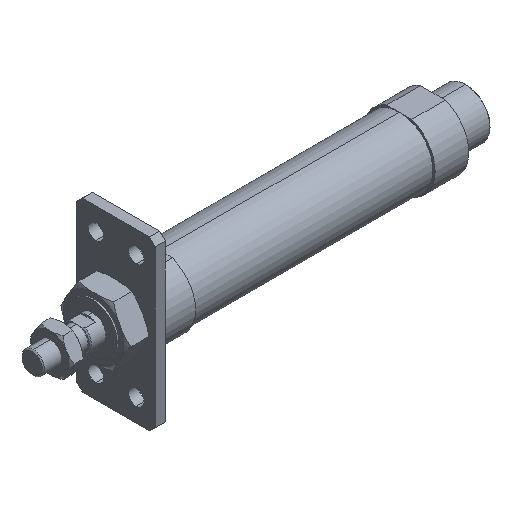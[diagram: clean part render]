
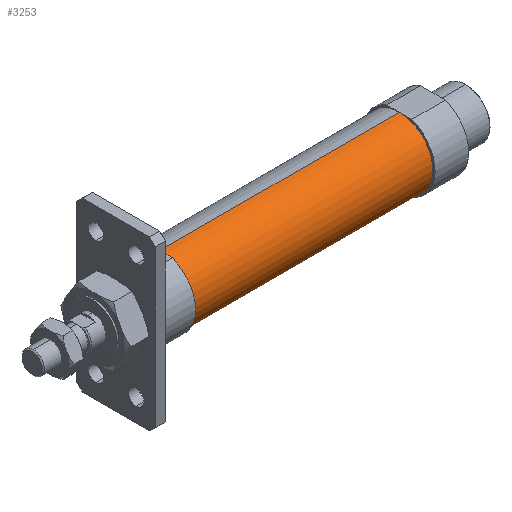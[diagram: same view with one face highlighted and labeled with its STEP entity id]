
A CAD part, isometric view. The second image highlights one B-rep face of the part: STEP entity #3253.
In plain terms, the highlighted cylindrical face has radius 15 mm (diameter 30 mm), a partial arc.
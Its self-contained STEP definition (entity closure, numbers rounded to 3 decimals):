
#166 = EDGE_CURVE ( 'NONE', #3648, #4125, #3799, .T. ) ;
#232 = DIRECTION ( 'NONE',  ( -1., 0., 0. ) ) ;
#254 = DIRECTION ( 'NONE',  ( -1., 0., 0. ) ) ;
#312 = CIRCLE ( 'NONE', #2004, 15. ) ;
#338 = VERTEX_POINT ( 'NONE', #1465 ) ;
#418 = ORIENTED_EDGE ( 'NONE', *, *, #662, .F. ) ;
#642 = CARTESIAN_POINT ( 'NONE',  ( -6.469, 0., 0. ) ) ;
#662 = EDGE_CURVE ( 'NONE', #4125, #338, #3274, .T. ) ;
#786 = EDGE_CURVE ( 'NONE', #3648, #2767, #312, .T. ) ;
#1217 = CARTESIAN_POINT ( 'NONE',  ( 57., 0., 0. ) ) ;
#1258 = ORIENTED_EDGE ( 'NONE', *, *, #166, .F. ) ;
#1375 = CYLINDRICAL_SURFACE ( 'NONE', #3601, 15. ) ;
#1389 = CARTESIAN_POINT ( 'NONE',  ( -6.469, 0., 15. ) ) ;
#1465 = CARTESIAN_POINT ( 'NONE',  ( 57., 0., 15. ) ) ;
#1588 = CARTESIAN_POINT ( 'NONE',  ( 164., 0., 15. ) ) ;
#1731 = DIRECTION ( 'NONE',  ( -1., 0., 0. ) ) ;
#1765 = VECTOR ( 'NONE', #1731, 1000. ) ;
#1952 = AXIS2_PLACEMENT_3D ( 'NONE', #1217, #2580, #3524 ) ;
#2004 = AXIS2_PLACEMENT_3D ( 'NONE', #2709, #254, #3109 ) ;
#2309 = DIRECTION ( 'NONE',  ( -1., 0., 0. ) ) ;
#2439 = FACE_OUTER_BOUND ( 'NONE', #2574, .T. ) ;
#2574 = EDGE_LOOP ( 'NONE', ( #1258, #3969, #3508, #418 ) ) ;
#2580 = DIRECTION ( 'NONE',  ( -1., 0., 0. ) ) ;
#2709 = CARTESIAN_POINT ( 'NONE',  ( 164., 0., 0. ) ) ;
#2767 = VERTEX_POINT ( 'NONE', #1588 ) ;
#2962 = LINE ( 'NONE', #1389, #3928 ) ;
#3103 = CARTESIAN_POINT ( 'NONE',  ( 164., 0., -15. ) ) ;
#3109 = DIRECTION ( 'NONE',  ( 0., 0., 1. ) ) ;
#3253 = ADVANCED_FACE ( 'NONE', ( #2439 ), #1375, .T. ) ;
#3274 = CIRCLE ( 'NONE', #1952, 15. ) ;
#3281 = DIRECTION ( 'NONE',  ( 0., 0., 1. ) ) ;
#3501 = EDGE_CURVE ( 'NONE', #2767, #338, #2962, .T. ) ;
#3508 = ORIENTED_EDGE ( 'NONE', *, *, #3501, .T. ) ;
#3524 = DIRECTION ( 'NONE',  ( 0., 0., 1. ) ) ;
#3601 = AXIS2_PLACEMENT_3D ( 'NONE', #642, #2309, #3281 ) ;
#3648 = VERTEX_POINT ( 'NONE', #3103 ) ;
#3799 = LINE ( 'NONE', #3999, #1765 ) ;
#3928 = VECTOR ( 'NONE', #232, 1000. ) ;
#3957 = CARTESIAN_POINT ( 'NONE',  ( 57., 0., -15. ) ) ;
#3969 = ORIENTED_EDGE ( 'NONE', *, *, #786, .T. ) ;
#3999 = CARTESIAN_POINT ( 'NONE',  ( -6.469, 0., -15. ) ) ;
#4125 = VERTEX_POINT ( 'NONE', #3957 ) ;
